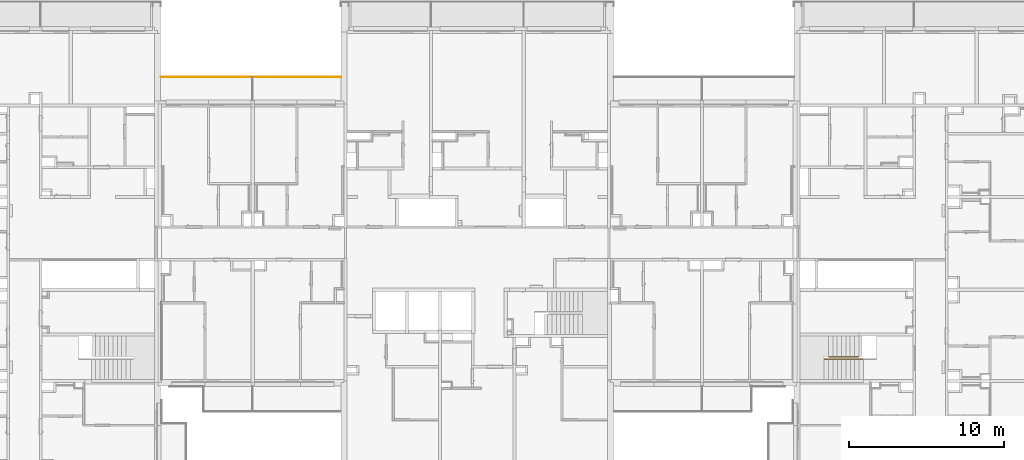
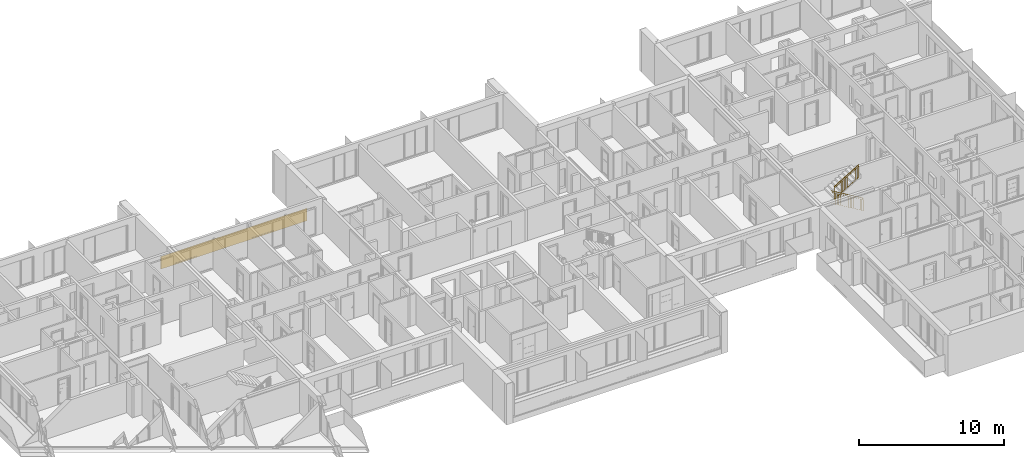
# One storey, part 7 of 67: 3 railings.
"""IFC2X3 building model written with IfcOpenShell, lengths in millimetres."""

import ifcopenshell
import ifcopenshell.guid

model = None  # the IFC model being written
_history = None  # IfcOwnerHistory: only IFC2X3 demands one
_inside = {}  # id of a spatial element -> (the spatial element, [elements in it])
_under = {}  # id of a project, library or spatial element -> (it, [spatial elements below it])
_declared = {}  # id of a project -> (the project, [libraries it declares])
_typed = {}  # id of a type object -> (the type object, [elements of that type])
_made_of = {}  # id of a material, layer set ... -> (it, [elements and type objects made of it])


def new_model(schema):
    """Start an empty IFC model of exactly this schema.

    Asked for "IFC4X3", IfcOpenShell would pick the latest addendum, in which some entities
    have other attributes; the version numbers below select the first issue.
    IFC2X3 requires an IfcOwnerHistory on every rooted entity: one is made here for all.
    """
    global model, _history
    if schema == "IFC4X3":
        model = ifcopenshell.file(schema_version=(4, 3, 0, 0))
    else:
        model = ifcopenshell.file(schema=schema)
    _inside.clear()
    _under.clear()
    _declared.clear()
    _typed.clear()
    _made_of.clear()
    _history = None
    if model.schema == "IFC2X3":
        org = make("IfcOrganization", Name="unknown")
        user = make(
            "IfcPersonAndOrganization",
            ThePerson=make("IfcPerson", FamilyName="unknown"),
            TheOrganization=org,
        )
        app = make(
            "IfcApplication",
            ApplicationDeveloper=org,
            Version="unknown",
            ApplicationFullName="unknown",
            ApplicationIdentifier="unknown",
        )
        _history = make(
            "IfcOwnerHistory",
            OwningUser=user,
            OwningApplication=app,
            ChangeAction="ADDED",
            CreationDate=0,
        )
    return model


def make(cls, **values):
    """One entity of the class cls with the attributes given. An attribute that is None is left unset."""
    return model.create_entity(
        cls, **{name: value for name, value in values.items() if value is not None}
    )


def entity(cls, *values):
    """Any entity or typed value of the class cls, its attributes in the order of the schema. None: left unset."""
    e = model.create_entity(cls)
    for i, value in enumerate(values):
        if value is not None:
            e[i] = value
    return e


def rooted(cls, **values):
    """An entity with a GlobalId (a new one), such as an element, a storey or a relation."""
    return make(cls, GlobalId=ifcopenshell.guid.new(), OwnerHistory=_history, **values)


def si_unit(unit_type, name, prefix=None):
    """IfcSIUnit, for example si_unit("LENGTHUNIT", "METRE", prefix="MILLI")."""
    return make("IfcSIUnit", UnitType=unit_type, Prefix=prefix, Name=name)


def converted_unit(unit_type, name, factor, base, dimensions=None, offset=None):
    """IfcConversionBasedUnit, such as the inch: factor (a typed value) times the base unit."""
    return make(
        "IfcConversionBasedUnit"
        if offset is None
        else "IfcConversionBasedUnitWithOffset",
        ConversionOffset=offset,
        Dimensions=None
        if dimensions is None
        else entity("IfcDimensionalExponents", *dimensions),
        UnitType=unit_type,
        Name=name,
        ConversionFactor=make(
            "IfcMeasureWithUnit", ValueComponent=factor, UnitComponent=base
        ),
    )


def derived_unit(unit_type, elements):
    """IfcDerivedUnit: a product of units, each with its exponent."""
    return make(
        "IfcDerivedUnit",
        Elements=[
            make("IfcDerivedUnitElement", Unit=unit, Exponent=power)
            for unit, power in elements
        ],
        UnitType=unit_type,
    )


def money_unit(currency):
    """IfcMonetaryUnit."""
    return make("IfcMonetaryUnit", Currency=currency)


def assignment(units):
    """IfcUnitAssignment: the units of a project."""
    return None if units is None else make("IfcUnitAssignment", Units=units)


def point(xyz):
    """IfcCartesianPoint."""
    return None if xyz is None else make("IfcCartesianPoint", Coordinates=xyz)


def direction(xyz):
    """IfcDirection."""
    return None if xyz is None else make("IfcDirection", DirectionRatios=xyz)


def frame(location, z_axis=None, x_axis=None):
    """IfcAxis2Placement3D, a coordinate frame: its origin and axes. An axis left out is left unset."""
    return make(
        "IfcAxis2Placement3D",
        Location=point(location),
        Axis=direction(z_axis),
        RefDirection=direction(x_axis),
    )


def origin_with_axes():
    """The frame at (0, 0, 0) with the z axis (0, 0, 1) and the x axis (1, 0, 0) written out."""
    return frame((0.0, 0.0, 0.0), z_axis=(0.0, 0.0, 1.0), x_axis=(1.0, 0.0, 0.0))


def place(relative_to, where):
    """IfcLocalPlacement: puts the frame where relative to a parent placement (None: the world)."""
    return make(
        "IfcLocalPlacement", PlacementRelTo=relative_to, RelativePlacement=where
    )


def context(
    kind, dimensions, precision=None, world=None, true_north=None, identifier=None
):
    """IfcGeometricRepresentationContext, for example the 3D "Model" context."""
    return make(
        "IfcGeometricRepresentationContext",
        ContextIdentifier=identifier,
        ContextType=kind,
        CoordinateSpaceDimension=dimensions,
        Precision=precision,
        WorldCoordinateSystem=world,
        TrueNorth=true_north,
    )


def subcontext(parent, identifier, kind, view, scale=None):
    """IfcGeometricRepresentationSubContext, for example "Body" below "Model"."""
    return make(
        "IfcGeometricRepresentationSubContext",
        ContextIdentifier=identifier,
        ContextType=kind,
        ParentContext=parent,
        TargetScale=scale,
        TargetView=view,
    )


def project(units=None, contexts=None):
    """IfcProject with its units and contexts."""
    return rooted(
        "IfcProject",
        Name="project",
        RepresentationContexts=contexts,
        UnitsInContext=assignment(units),
    )


def spatial(cls, under=None, at=None, **own):
    """A site, building, storey or space (cls), placed at a placement, below another one or the project."""
    s = rooted(cls, ObjectPlacement=at, **own)
    if under is not None:
        _under.setdefault(under.id(), (under, []))[1].append(s)
    return s


def faces_of(points, faces, orient=None, outer=None):
    """IfcFace entities. A face is a list of loops; a loop is a list of indices into points, from 0.

    orient and outer hold one flag for each loop. By default every Orientation is true, the
    first loop of a face is its IfcFaceOuterBound and the others are IfcFaceBound.
    """
    made = []
    for i, loops in enumerate(faces):
        bounds = []
        for j, loop in enumerate(loops):
            is_outer = j == 0 if outer is None else outer[i][j]
            bounds.append(
                make(
                    "IfcFaceOuterBound" if is_outer else "IfcFaceBound",
                    Bound=make("IfcPolyLoop", Polygon=[points[k] for k in loop]),
                    Orientation=True if orient is None else orient[i][j],
                )
            )
        made.append(make("IfcFace", Bounds=bounds))
    return made


def faceted_brep(points, faces, orient=None, outer=None, voids=None):
    """IfcFacetedBrep: a solid bounded by flat faces; with voids (closed shells), ...WithVoids."""
    shared = [point(p) for p in points]
    hull = make("IfcClosedShell", CfsFaces=faces_of(shared, faces, orient, outer))
    if voids is None:
        return make("IfcFacetedBrep", Outer=hull)
    return make(
        "IfcFacetedBrepWithVoids",
        Outer=hull,
        Voids=[
            make(cls, CfsFaces=faces_of(shared, fs, o, b)) for cls, fs, o, b in voids
        ],
    )


def shape(context_of_items, identifier, shape_type, items):
    """IfcShapeRepresentation: the items that make up one representation, for example the "Body"."""
    return make(
        "IfcShapeRepresentation",
        ContextOfItems=context_of_items,
        RepresentationIdentifier=identifier,
        RepresentationType=shape_type,
        Items=items,
    )


def material(Name=None, Category=None):
    """IfcMaterial."""
    return make("IfcMaterial", Name=Name, Category=Category)


def material_list(materials):
    """IfcMaterialList."""
    return make("IfcMaterialList", Materials=materials)


def made_of(thing, what):
    """Note that an element or type object is made of a material, layer set ...; save() writes the relation."""
    if what is not None:
        _made_of.setdefault(what.id(), (what, []))[1].append(thing)
    return thing


def type_object(cls, material=None, **own):
    """A type object (cls), such as IfcWallType, which elements share."""
    return made_of(rooted(cls, **own), material)


def element(
    cls,
    number,
    at=None,
    inside=None,
    cuts=None,
    type_object=None,
    material=None,
    context=None,
    identifier="Body",
    shape_type=None,
    held_by="IfcProductDefinitionShape",
    body=None,
    shapes=None,
    **own,
):
    """One element of the class cls, such as IfcWall. Its Tag is "e" and its number.

    at: its placement. inside: the storey or other place that contains it. cuts: it is an
    opening in that element (IfcRelVoidsElement). A single representation is given by context,
    identifier, shape_type and body (its items); several are given by shapes. held_by: the class
    of the entity that holds the representations. save() writes the other relations.
    """
    e = rooted(cls, Tag="e%d" % number, ObjectPlacement=at, **own)
    if body is not None:
        shapes = [shape(context, identifier, shape_type, body)]
    if shapes is not None:
        e.Representation = make(held_by, Representations=shapes)
    if inside is not None:
        _inside.setdefault(inside.id(), (inside, []))[1].append(e)
    if cuts is not None:
        rooted(
            "IfcRelVoidsElement", RelatingBuildingElement=cuts, RelatedOpeningElement=e
        )
    if type_object is not None:
        _typed.setdefault(type_object.id(), (type_object, []))[1].append(e)
    return made_of(e, material)


def aggregate(whole, parts):
    """IfcRelAggregates: a whole, such as a stair, and the parts it consists of."""
    return rooted("IfcRelAggregates", RelatingObject=whole, RelatedObjects=parts)


def save(model, path):
    """Write the relations noted so far, then the file.

    IfcRelAggregates (storeys below a building ...), IfcRelContainedInSpatialStructure (elements
    in a storey), IfcRelDefinesByType, IfcRelAssociatesMaterial and IfcRelDeclares: one each for
    every whole, place, type object, material and project.
    """
    for whole, parts in _under.values():
        aggregate(whole, parts)
    for where, things in _inside.values():
        rooted(
            "IfcRelContainedInSpatialStructure",
            RelatedElements=things,
            RelatingStructure=where,
        )
    for kind, things in _typed.values():
        rooted("IfcRelDefinesByType", RelatedObjects=things, RelatingType=kind)
    for what, things in _made_of.values():
        rooted("IfcRelAssociatesMaterial", RelatedObjects=things, RelatingMaterial=what)
    for by, libraries in _declared.values():
        rooted("IfcRelDeclares", RelatingContext=by, RelatedDefinitions=libraries)
    model.write(path)


model = new_model("IFC2X3")

# Units and contexts
model_context = context("Model", 3, precision=0.01, world=origin_with_axes(), true_north=direction((0.34421633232, 0.938890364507)))
body_context = subcontext(model_context, "Body", "Model", "MODEL_VIEW")
ifc_project = project(units=[si_unit("LENGTHUNIT", "METRE", prefix="MILLI"), si_unit("AREAUNIT", "SQUARE_METRE"), si_unit("VOLUMEUNIT", "CUBIC_METRE"), converted_unit("PLANEANGLEUNIT", "DEGREE", entity("IfcPlaneAngleMeasure", 0.0174532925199), si_unit("PLANEANGLEUNIT", "RADIAN"), dimensions=[0, 0, 0, 0, 0, 0, 0]), si_unit("SOLIDANGLEUNIT", "STERADIAN"), money_unit("USD"), converted_unit("TIMEUNIT", "Year", entity("IfcTimeMeasure", 31556926.0), si_unit("TIMEUNIT", "SECOND"), dimensions=[0, 0, 1, 0, 0, 0, 0]), si_unit("MASSUNIT", "GRAM", prefix="KILO"), si_unit("THERMODYNAMICTEMPERATUREUNIT", "DEGREE_CELSIUS"), si_unit("LUMINOUSINTENSITYUNIT", "LUMEN"), si_unit("ENERGYUNIT", "JOULE", prefix="MEGA"), derived_unit("THERMALCONDUCTANCEUNIT", [(si_unit("POWERUNIT", "WATT"), 1), (si_unit("LENGTHUNIT", "METRE"), -1), (si_unit("THERMODYNAMICTEMPERATUREUNIT", "KELVIN"), -1)]), derived_unit("SPECIFICHEATCAPACITYUNIT", [(si_unit("ENERGYUNIT", "JOULE"), 1), (si_unit("MASSUNIT", "GRAM", prefix="KILO"), -1), (si_unit("THERMODYNAMICTEMPERATUREUNIT", "KELVIN"), -1)]), derived_unit("MASSDENSITYUNIT", [(si_unit("MASSUNIT", "GRAM", prefix="KILO"), 1), (si_unit("VOLUMEUNIT", "CUBIC_METRE"), -1)])], contexts=[model_context])

# Site, building, storey
site_placement = place(None, origin_with_axes())
site = spatial("IfcSite", under=ifc_project, at=site_placement, Name="USTRONIE MORSKIE", CompositionType="ELEMENT")
building_placement = place(site_placement, origin_with_axes())
building = spatial("IfcBuilding", under=site, at=building_placement, Name="Budynek", CompositionType="ELEMENT")
storey_placement = place(building_placement, frame((0.0, 0.0, 4000.0), z_axis=(0.0, 0.0, 1.0), x_axis=(1.0, 0.0, 0.0)))
storey = spatial("IfcBuildingStorey", under=building, at=storey_placement, Name="PIĘTRO 1", CompositionType="ELEMENT", Elevation=4000.0)

# Railings
ifc_material_1 = material(Name="Szkło struktualne")
ifc_material_2 = material(Name="Profile aluminiowe")
ifc_material_list_1 = material_list([ifc_material_1, ifc_material_2])
railing_type = type_object("IfcRailingType", Name="Typ balustrady", PredefinedType="NOTDEFINED")
railing_1_placement = place(storey_placement, frame((367367.920919, 746801.194135, 30.0), z_axis=(0.0, 0.0, 1.0), x_axis=(1.0, 0.0, 0.0)))
element("IfcRailing", 1, at=railing_1_placement, inside=storey, type_object=railing_type, material=ifc_material_list_1, Name="BL1", PredefinedType="NOTDEFINED", context=body_context, shape_type="Brep", body=[
    faceted_brep([(11650.0, -240.0, -100.0), (0.0, -240.0, -100.0), (0.0, -240.0, 950.0), (11650.0, -240.0, 950.0), (0.0, -260.0, -100.0), (11650.0, -260.0, -100.0), (0.0, -260.0, 950.0), (11650.0, -260.0, 950.0)], [[[0, 1, 2, 3]], [[4, 1, 0, 5]], [[6, 2, 1, 4]], [[3, 2, 6, 7]], [[0, 3, 7, 5]], [[6, 4, 5, 7]]]),
    faceted_brep([(11650.0, -265.0, -5.0), (0.0, -265.0, -5.0), (0.0, -265.0, -105.0), (11650.0, -265.0, -105.0), (11650.0, -260.0, -5.0), (0.0, -260.0, -5.0), (0.0, -260.0, -100.0), (0.0, -240.0, -100.0), (0.0, -240.0, -5.0), (0.0, -235.0, -5.0), (0.0, -235.0, -105.0), (11650.0, -235.0, -105.0), (11650.0, -235.0, -5.0), (11650.0, -240.0, -5.0), (11650.0, -240.0, -100.0), (11650.0, -260.0, -100.0)], [[[0, 1, 2, 3]], [[1, 0, 4, 5]], [[6, 7, 8, 9, 10, 2, 1, 5]], [[10, 11, 3, 2]], [[11, 12, 13, 14, 15, 4, 0, 3]], [[15, 6, 5, 4]], [[7, 6, 15, 14]], [[8, 7, 14, 13]], [[9, 8, 13, 12]], [[11, 10, 9, 12]]]),
])
ifc_material_3 = material(Name="Stal konstrukcyjna")
ifc_material_4 = material(Name="Stal nierdzewna")
ifc_material_list_2 = material_list([ifc_material_3, ifc_material_3, ifc_material_4, ifc_material_4, ifc_material_4, ifc_material_3, ifc_material_3, ifc_material_3, ifc_material_3, ifc_material_3, ifc_material_3, ifc_material_3, ifc_material_3, ifc_material_3, ifc_material_3, ifc_material_3, ifc_material_3, ifc_material_3, ifc_material_3, ifc_material_3, ifc_material_3, ifc_material_3, ifc_material_3, ifc_material_3, ifc_material_3, ifc_material_3])
railing_2_placement = place(storey_placement, frame((412739.660049, 728301.198948, 166.666666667), z_axis=(0.0, 0.0, 1.0), x_axis=(1.0, 0.0, 0.0)))
element("IfcRailing", 2, at=railing_2_placement, inside=storey, type_object=railing_type, material=ifc_material_list_2, Name="BL1", PredefinedType="NOTDEFINED", context=body_context, shape_type="Brep", body=[
    faceted_brep([(-9.99999999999, 45.0, -144.051724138), (-9.99999999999, 25.0, -144.051724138), (-9.99999999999, 25.0, 755.948275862), (-9.99999999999, 45.0, 755.948275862), (9.99999999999, 45.0, -155.948275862), (9.99999999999, 25.0, -155.948275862), (-5.0, 40.0, -147.025862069), (-5.0, 30.0, -147.025862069), (5.0, 30.0, -152.974137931), (5.0, 40.0, -152.974137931), (9.99999999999, 25.0, 744.051724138), (9.99999999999, 45.0, 744.051724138), (-5.0, 40.0, 752.974137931), (5.0, 40.0, 747.025862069), (5.0, 30.0, 747.025862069), (-5.0, 30.0, 752.974137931)], [[[0, 1, 2, 3]], [[0, 4, 5, 1], [6, 7, 8, 9]], [[1, 5, 10, 2]], [[3, 2, 10, 11], [12, 13, 14, 15]], [[4, 0, 3, 11]], [[5, 4, 11, 10]], [[7, 6, 12, 15]], [[8, 7, 15, 14]], [[9, 8, 14, 13]], [[6, 9, 13, 12]]]),
    faceted_brep([(-2531.73913043, 45.0, 1355.94827586), (-2531.73913043, 25.0, 1355.94827586), (-2531.73913043, 25.0, 2255.94827586), (-2531.73913043, 45.0, 2255.94827586), (-2511.73913043, 45.0, 1344.05172414), (-2511.73913043, 25.0, 1344.05172414), (-2526.73913043, 40.0, 1352.97413793), (-2526.73913043, 30.0, 1352.97413793), (-2516.73913043, 30.0, 1347.02586207), (-2516.73913043, 40.0, 1347.02586207), (-2511.73913043, 25.0, 2244.05172414), (-2511.73913043, 45.0, 2244.05172414), (-2526.73913043, 40.0, 2252.97413793), (-2516.73913043, 40.0, 2247.02586207), (-2516.73913043, 30.0, 2247.02586207), (-2526.73913043, 30.0, 2252.97413793)], [[[0, 1, 2, 3]], [[0, 4, 5, 1], [6, 7, 8, 9]], [[1, 5, 10, 2]], [[3, 2, 10, 11], [12, 13, 14, 15]], [[4, 0, 3, 11]], [[5, 4, 11, 10]], [[7, 6, 12, 15]], [[8, 7, 15, 14]], [[9, 8, 14, 13]], [[6, 9, 13, 12]]]),
    faceted_brep([(0.0, 59.9999999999, 900.0), (-12.7805831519, 59.9999999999, 878.513802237), (-2534.51971359, 59.9999999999, 2378.51380224), (-2521.73913043, 59.9999999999, 2400.0), (0.0, 9.99999999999, 900.0), (-12.7805831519, 9.99999999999, 878.513802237), (-12.7805831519, 25.0, 878.513802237), (-10.2244665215, 25.0, 882.81104179), (-10.2244665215, 45.0, 882.81104179), (-12.7805831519, 45.0, 878.513802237), (-2534.51971359, 45.0, 2378.51380224), (-2531.96359696, 45.0, 2382.81104179), (-2531.96359696, 25.0, 2382.81104179), (-2534.51971359, 25.0, 2378.51380224), (-2534.51971359, 9.99999999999, 2378.51380224), (-2521.73913043, 9.99999999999, 2400.0)], [[[0, 1, 2, 3]], [[0, 4, 5, 6, 7, 8, 9, 1]], [[1, 9, 10, 2]], [[3, 2, 10, 11, 12, 13, 14, 15]], [[4, 0, 3, 15]], [[5, 4, 15, 14]], [[6, 5, 14, 13]], [[7, 6, 13, 12]], [[8, 7, 12, 11]], [[9, 8, 11, 10]]]),
    faceted_brep([(-12.7805831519, 45.0, 878.513802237), (-12.7805831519, 25.0, 878.513802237), (-2534.51971359, 25.0, 2378.51380224), (-2534.51971359, 45.0, 2378.51380224), (-10.2244665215, 45.0, 882.81104179), (-10.2244665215, 25.0, 882.81104179), (-2531.96359696, 25.0, 2382.81104179), (-2531.96359696, 45.0, 2382.81104179)], [[[0, 1, 2, 3]], [[0, 4, 5, 1]], [[1, 5, 6, 2]], [[3, 2, 6, 7]], [[4, 0, 3, 7]], [[5, 4, 7, 6]]]),
    faceted_brep([(-45.4723955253, 45.0, 776.472725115), (-45.4723955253, 25.0, 776.472725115), (-45.4723955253, 25.0, 897.95979408), (-45.4723955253, 45.0, 897.95979408), (-40.4723955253, 45.0, 776.472725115), (-40.4723955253, 25.0, 776.472725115), (-40.4723955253, 25.0, 896.472725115), (-42.9723955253, 25.0, 897.95979408), (-42.9723955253, 45.0, 897.95979408), (-40.4723955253, 45.0, 896.472725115)], [[[0, 1, 2, 3]], [[0, 4, 5, 1]], [[1, 5, 6, 7, 2]], [[3, 2, 7, 8]], [[4, 0, 3, 8, 9]], [[5, 4, 9, 6]], [[7, 6, 9, 8]]]),
    faceted_brep([(-2481.26673491, 45.0, 2225.35039251), (-2481.26673491, 25.0, 2225.35039251), (-2481.26673491, 25.0, 2346.83746147), (-2481.26673491, 45.0, 2346.83746147), (-2476.26673491, 45.0, 2225.35039251), (-2476.26673491, 25.0, 2225.35039251), (-2476.26673491, 25.0, 2345.35039251), (-2478.76673491, 25.0, 2346.83746147), (-2478.76673491, 45.0, 2346.83746147), (-2476.26673491, 45.0, 2345.35039251)], [[[0, 1, 2, 3]], [[0, 4, 5, 1]], [[1, 5, 6, 7, 2]], [[3, 2, 7, 8]], [[4, 0, 3, 8, 9]], [[5, 4, 9, 6]], [[7, 6, 9, 8]]]),
    faceted_brep([(0.0, 54.9999999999, 750.0), (-2.55611663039, 54.9999999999, 745.702760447), (-2524.29524707, 54.9999999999, 2245.70276045), (-2521.73913043, 54.9999999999, 2250.0), (0.0, 15.0, 750.0), (-2.55611663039, 15.0, 745.702760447), (-2524.29524707, 15.0, 2245.70276045), (-2521.73913043, 15.0, 2250.0)], [[[0, 1, 2, 3]], [[0, 4, 5, 1]], [[1, 5, 6, 2]], [[3, 2, 6, 7]], [[4, 0, 3, 7]], [[5, 4, 7, 6]]]),
    faceted_brep([(1.27805831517, 54.9999999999, -157.851380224), (-1.27805831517, 54.9999999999, -162.148619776), (-2523.01718875, 54.9999999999, 1337.85138022), (-2520.46107212, 54.9999999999, 1342.14861978), (1.27805831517, 15.0, -157.851380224), (-1.27805831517, 15.0, -162.148619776), (-2523.01718875, 15.0, 1337.85138022), (-2520.46107212, 15.0, 1342.14861978)], [[[0, 1, 2, 3]], [[0, 4, 5, 1]], [[1, 5, 6, 2]], [[3, 2, 6, 7]], [[4, 0, 3, 7]], [[5, 4, 7, 6]]]),
    faceted_brep([(-117.124505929, 47.5, -85.3311128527), (-117.124505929, 22.4999999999, -85.3311128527), (-117.124505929, 22.4999999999, 814.668887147), (-117.124505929, 47.5, 814.668887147), (-112.124505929, 47.5, -88.3052507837), (-112.124505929, 22.4999999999, -88.3052507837), (-112.124505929, 22.4999999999, 811.694749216), (-112.124505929, 47.5, 811.694749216)], [[[0, 1, 2, 3]], [[0, 4, 5, 1]], [[1, 5, 6, 2]], [[3, 2, 6, 7]], [[4, 0, 3, 7]], [[5, 4, 7, 6]]]),
    faceted_brep([(-231.749011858, 47.5, -17.1492946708), (-231.749011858, 22.4999999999, -17.1492946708), (-231.749011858, 22.4999999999, 882.850705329), (-231.749011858, 47.5, 882.850705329), (-226.749011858, 47.5, -20.1234326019), (-226.749011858, 22.4999999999, -20.1234326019), (-226.749011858, 22.4999999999, 879.876567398), (-226.749011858, 47.5, 879.876567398)], [[[0, 1, 2, 3]], [[0, 4, 5, 1]], [[1, 5, 6, 2]], [[3, 2, 6, 7]], [[4, 0, 3, 7]], [[5, 4, 7, 6]]]),
    faceted_brep([(-346.373517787, 47.5, 51.032523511), (-346.373517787, 22.4999999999, 51.032523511), (-346.373517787, 22.4999999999, 951.032523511), (-346.373517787, 47.5, 951.032523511), (-341.373517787, 47.5, 48.0583855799), (-341.373517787, 22.4999999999, 48.0583855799), (-341.373517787, 22.4999999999, 948.05838558), (-341.373517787, 47.5, 948.05838558)], [[[0, 1, 2, 3]], [[0, 4, 5, 1]], [[1, 5, 6, 2]], [[3, 2, 6, 7]], [[4, 0, 3, 7]], [[5, 4, 7, 6]]]),
    faceted_brep([(-460.998023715, 47.5, 119.214341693), (-460.998023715, 22.4999999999, 119.214341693), (-460.998023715, 22.4999999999, 1019.21434169), (-460.998023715, 47.5, 1019.21434169), (-455.998023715, 47.5, 116.240203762), (-455.998023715, 22.4999999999, 116.240203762), (-455.998023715, 22.4999999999, 1016.24020376), (-455.998023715, 47.5, 1016.24020376)], [[[0, 1, 2, 3]], [[0, 4, 5, 1]], [[1, 5, 6, 2]], [[3, 2, 6, 7]], [[4, 0, 3, 7]], [[5, 4, 7, 6]]]),
    faceted_brep([(-575.622529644, 47.5, 187.396159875), (-575.622529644, 22.4999999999, 187.396159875), (-575.622529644, 22.4999999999, 1087.39615987), (-575.622529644, 47.5, 1087.39615987), (-570.622529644, 47.5, 184.422021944), (-570.622529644, 22.4999999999, 184.422021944), (-570.622529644, 22.4999999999, 1084.42202194), (-570.622529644, 47.5, 1084.42202194)], [[[0, 1, 2, 3]], [[0, 4, 5, 1]], [[1, 5, 6, 2]], [[3, 2, 6, 7]], [[4, 0, 3, 7]], [[5, 4, 7, 6]]]),
    faceted_brep([(-690.247035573, 47.5, 255.577978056), (-690.247035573, 22.4999999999, 255.577978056), (-690.247035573, 22.4999999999, 1155.57797806), (-690.247035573, 47.5, 1155.57797806), (-685.247035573, 47.5, 252.603840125), (-685.247035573, 22.4999999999, 252.603840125), (-685.247035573, 22.4999999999, 1152.60384013), (-685.247035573, 47.5, 1152.60384013)], [[[0, 1, 2, 3]], [[0, 4, 5, 1]], [[1, 5, 6, 2]], [[3, 2, 6, 7]], [[4, 0, 3, 7]], [[5, 4, 7, 6]]]),
    faceted_brep([(-804.871541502, 47.5, 323.759796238), (-804.871541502, 22.4999999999, 323.759796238), (-804.871541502, 22.4999999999, 1223.75979624), (-804.871541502, 47.5, 1223.75979624), (-799.871541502, 47.5, 320.785658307), (-799.871541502, 22.4999999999, 320.785658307), (-799.871541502, 22.4999999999, 1220.78565831), (-799.871541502, 47.5, 1220.78565831)], [[[0, 1, 2, 3]], [[0, 4, 5, 1]], [[1, 5, 6, 2]], [[3, 2, 6, 7]], [[4, 0, 3, 7]], [[5, 4, 7, 6]]]),
    faceted_brep([(-919.496047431, 47.5, 391.94161442), (-919.496047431, 22.4999999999, 391.94161442), (-919.496047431, 22.4999999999, 1291.94161442), (-919.496047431, 47.5, 1291.94161442), (-914.496047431, 47.5, 388.967476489), (-914.496047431, 22.4999999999, 388.967476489), (-914.496047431, 22.4999999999, 1288.96747649), (-914.496047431, 47.5, 1288.96747649)], [[[0, 1, 2, 3]], [[0, 4, 5, 1]], [[1, 5, 6, 2]], [[3, 2, 6, 7]], [[4, 0, 3, 7]], [[5, 4, 7, 6]]]),
    faceted_brep([(-1034.12055336, 47.5, 460.123432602), (-1034.12055336, 22.4999999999, 460.123432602), (-1034.12055336, 22.4999999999, 1360.1234326), (-1034.12055336, 47.5, 1360.1234326), (-1029.12055336, 47.5, 457.149294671), (-1029.12055336, 22.4999999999, 457.149294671), (-1029.12055336, 22.4999999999, 1357.14929467), (-1029.12055336, 47.5, 1357.14929467)], [[[0, 1, 2, 3]], [[0, 4, 5, 1]], [[1, 5, 6, 2]], [[3, 2, 6, 7]], [[4, 0, 3, 7]], [[5, 4, 7, 6]]]),
    faceted_brep([(-1148.74505929, 47.5, 528.305250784), (-1148.74505929, 22.4999999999, 528.305250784), (-1148.74505929, 22.4999999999, 1428.30525078), (-1148.74505929, 47.5, 1428.30525078), (-1143.74505929, 47.5, 525.331112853), (-1143.74505929, 22.4999999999, 525.331112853), (-1143.74505929, 22.4999999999, 1425.33111285), (-1143.74505929, 47.5, 1425.33111285)], [[[0, 1, 2, 3]], [[0, 4, 5, 1]], [[1, 5, 6, 2]], [[3, 2, 6, 7]], [[4, 0, 3, 7]], [[5, 4, 7, 6]]]),
    faceted_brep([(-1263.36956522, 47.5, 596.487068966), (-1263.36956522, 22.4999999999, 596.487068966), (-1263.36956522, 22.4999999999, 1496.48706897), (-1263.36956522, 47.5, 1496.48706897), (-1258.36956522, 47.5, 593.512931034), (-1258.36956522, 22.4999999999, 593.512931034), (-1258.36956522, 22.4999999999, 1493.51293103), (-1258.36956522, 47.5, 1493.51293103)], [[[0, 1, 2, 3]], [[0, 4, 5, 1]], [[1, 5, 6, 2]], [[3, 2, 6, 7]], [[4, 0, 3, 7]], [[5, 4, 7, 6]]]),
    faceted_brep([(-1377.99407115, 47.5, 664.668887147), (-1377.99407115, 22.4999999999, 664.668887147), (-1377.99407115, 22.4999999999, 1564.66888715), (-1377.99407115, 47.5, 1564.66888715), (-1372.99407115, 47.5, 661.694749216), (-1372.99407115, 22.4999999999, 661.694749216), (-1372.99407115, 22.4999999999, 1561.69474922), (-1372.99407115, 47.5, 1561.69474922)], [[[0, 1, 2, 3]], [[0, 4, 5, 1]], [[1, 5, 6, 2]], [[3, 2, 6, 7]], [[4, 0, 3, 7]], [[5, 4, 7, 6]]]),
    faceted_brep([(-1492.61857708, 47.5, 732.850705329), (-1492.61857708, 22.4999999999, 732.850705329), (-1492.61857708, 22.4999999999, 1632.85070533), (-1492.61857708, 47.5, 1632.85070533), (-1487.61857708, 47.5, 729.876567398), (-1487.61857708, 22.4999999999, 729.876567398), (-1487.61857708, 22.4999999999, 1629.8765674), (-1487.61857708, 47.5, 1629.8765674)], [[[0, 1, 2, 3]], [[0, 4, 5, 1]], [[1, 5, 6, 2]], [[3, 2, 6, 7]], [[4, 0, 3, 7]], [[5, 4, 7, 6]]]),
    faceted_brep([(-1607.243083, 47.5, 801.032523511), (-1607.243083, 22.4999999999, 801.032523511), (-1607.243083, 22.4999999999, 1701.03252351), (-1607.243083, 47.5, 1701.03252351), (-1602.243083, 47.5, 798.05838558), (-1602.243083, 22.4999999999, 798.05838558), (-1602.243083, 22.4999999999, 1698.05838558), (-1602.243083, 47.5, 1698.05838558)], [[[0, 1, 2, 3]], [[0, 4, 5, 1]], [[1, 5, 6, 2]], [[3, 2, 6, 7]], [[4, 0, 3, 7]], [[5, 4, 7, 6]]]),
    faceted_brep([(-1721.86758893, 47.5, 869.214341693), (-1721.86758893, 22.4999999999, 869.214341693), (-1721.86758893, 22.4999999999, 1769.21434169), (-1721.86758893, 47.5, 1769.21434169), (-1716.86758893, 47.5, 866.240203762), (-1716.86758893, 22.4999999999, 866.240203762), (-1716.86758893, 22.4999999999, 1766.24020376), (-1716.86758893, 47.5, 1766.24020376)], [[[0, 1, 2, 3]], [[0, 4, 5, 1]], [[1, 5, 6, 2]], [[3, 2, 6, 7]], [[4, 0, 3, 7]], [[5, 4, 7, 6]]]),
    faceted_brep([(-1836.49209486, 47.5, 937.396159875), (-1836.49209486, 22.4999999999, 937.396159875), (-1836.49209486, 22.4999999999, 1837.39615987), (-1836.49209486, 47.5, 1837.39615987), (-1831.49209486, 47.5, 934.422021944), (-1831.49209486, 22.4999999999, 934.422021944), (-1831.49209486, 22.4999999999, 1834.42202194), (-1831.49209486, 47.5, 1834.42202194)], [[[0, 1, 2, 3]], [[0, 4, 5, 1]], [[1, 5, 6, 2]], [[3, 2, 6, 7]], [[4, 0, 3, 7]], [[5, 4, 7, 6]]]),
    faceted_brep([(-1951.11660079, 47.5, 1005.57797806), (-1951.11660079, 22.4999999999, 1005.57797806), (-1951.11660079, 22.4999999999, 1905.57797806), (-1951.11660079, 47.5, 1905.57797806), (-1946.11660079, 47.5, 1002.60384013), (-1946.11660079, 22.4999999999, 1002.60384013), (-1946.11660079, 22.4999999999, 1902.60384013), (-1946.11660079, 47.5, 1902.60384013)], [[[0, 1, 2, 3]], [[0, 4, 5, 1]], [[1, 5, 6, 2]], [[3, 2, 6, 7]], [[4, 0, 3, 7]], [[5, 4, 7, 6]]]),
    faceted_brep([(-2065.74110672, 47.5, 1073.75979624), (-2065.74110672, 22.4999999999, 1073.75979624), (-2065.74110672, 22.4999999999, 1973.75979624), (-2065.74110672, 47.5, 1973.75979624), (-2060.74110672, 47.5, 1070.78565831), (-2060.74110672, 22.4999999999, 1070.78565831), (-2060.74110672, 22.4999999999, 1970.78565831), (-2060.74110672, 47.5, 1970.78565831)], [[[0, 1, 2, 3]], [[0, 4, 5, 1]], [[1, 5, 6, 2]], [[3, 2, 6, 7]], [[4, 0, 3, 7]], [[5, 4, 7, 6]]]),
    faceted_brep([(-2180.36561265, 47.5, 1141.94161442), (-2180.36561265, 22.4999999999, 1141.94161442), (-2180.36561265, 22.4999999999, 2041.94161442), (-2180.36561265, 47.5, 2041.94161442), (-2175.36561265, 47.5, 1138.96747649), (-2175.36561265, 22.4999999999, 1138.96747649), (-2175.36561265, 22.4999999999, 2038.96747649), (-2175.36561265, 47.5, 2038.96747649)], [[[0, 1, 2, 3]], [[0, 4, 5, 1]], [[1, 5, 6, 2]], [[3, 2, 6, 7]], [[4, 0, 3, 7]], [[5, 4, 7, 6]]]),
    faceted_brep([(-2294.99011858, 47.5, 1210.1234326), (-2294.99011858, 22.4999999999, 1210.1234326), (-2294.99011858, 22.4999999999, 2110.1234326), (-2294.99011858, 47.5, 2110.1234326), (-2289.99011858, 47.5, 1207.14929467), (-2289.99011858, 22.4999999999, 1207.14929467), (-2289.99011858, 22.4999999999, 2107.14929467), (-2289.99011858, 47.5, 2107.14929467)], [[[0, 1, 2, 3]], [[0, 4, 5, 1]], [[1, 5, 6, 2]], [[3, 2, 6, 7]], [[4, 0, 3, 7]], [[5, 4, 7, 6]]]),
    faceted_brep([(-2409.61462451, 47.5, 1278.30525078), (-2409.61462451, 22.4999999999, 1278.30525078), (-2409.61462451, 22.4999999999, 2178.30525078), (-2409.61462451, 47.5, 2178.30525078), (-2404.61462451, 47.5, 1275.33111285), (-2404.61462451, 22.4999999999, 1275.33111285), (-2404.61462451, 22.4999999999, 2175.33111285), (-2404.61462451, 47.5, 2175.33111285)], [[[0, 1, 2, 3]], [[0, 4, 5, 1]], [[1, 5, 6, 2]], [[3, 2, 6, 7]], [[4, 0, 3, 7]], [[5, 4, 7, 6]]]),
])
ifc_material_list_3 = material_list([ifc_material_3, ifc_material_3, ifc_material_4, ifc_material_4, ifc_material_4, ifc_material_3, ifc_material_3, ifc_material_3, ifc_material_3, ifc_material_3, ifc_material_3, ifc_material_3, ifc_material_3, ifc_material_3, ifc_material_3, ifc_material_3, ifc_material_3, ifc_material_3, ifc_material_3, ifc_material_3, ifc_material_3])
railing_3_placement = place(storey_placement, frame((410497.920919, 728501.198948, 1833.33333333), z_axis=(0.0, 0.0, 1.0), x_axis=(1.0, 0.0, 0.0)))
element("IfcRailing", 3, at=railing_3_placement, inside=storey, type_object=railing_type, material=ifc_material_list_3, Name="BL1", PredefinedType="NOTDEFINED", context=body_context, shape_type="Brep", body=[
    faceted_brep([(9.99999999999, -45.0, -144.047619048), (9.99999999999, -25.0, -144.047619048), (9.99999999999, -25.0, 755.952380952), (9.99999999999, -45.0, 755.952380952), (-9.99999999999, -45.0, -155.952380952), (-9.99999999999, -25.0, -155.952380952), (5.0, -40.0, -147.023809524), (5.0, -30.0, -147.023809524), (-5.0, -30.0, -152.976190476), (-5.0, -40.0, -152.976190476), (-9.99999999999, -25.0, 744.047619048), (-9.99999999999, -45.0, 744.047619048), (5.0, -40.0, 752.976190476), (-5.0, -40.0, 747.023809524), (-5.0, -30.0, 747.023809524), (5.0, -30.0, 752.976190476)], [[[0, 1, 2, 3]], [[0, 4, 5, 1], [6, 7, 8, 9]], [[1, 5, 10, 2]], [[3, 2, 10, 11], [12, 13, 14, 15]], [[4, 0, 3, 11]], [[5, 4, 11, 10]], [[7, 6, 12, 15]], [[8, 7, 15, 14]], [[9, 8, 14, 13]], [[6, 9, 13, 12]]]),
    faceted_brep([(1970.0, -45.0, 1022.61904762), (1970.0, -25.0, 1022.61904762), (1970.0, -25.0, 1922.61904762), (1970.0, -45.0, 1922.61904762), (1950.0, -45.0, 1010.71428571), (1950.0, -25.0, 1010.71428571), (1965.0, -40.0, 1019.64285714), (1965.0, -30.0, 1019.64285714), (1955.0, -30.0, 1013.69047619), (1955.0, -40.0, 1013.69047619), (1950.0, -25.0, 1910.71428571), (1950.0, -45.0, 1910.71428571), (1965.0, -40.0, 1919.64285714), (1955.0, -40.0, 1913.69047619), (1955.0, -30.0, 1913.69047619), (1965.0, -30.0, 1919.64285714)], [[[0, 1, 2, 3]], [[0, 4, 5, 1], [6, 7, 8, 9]], [[1, 5, 10, 2]], [[3, 2, 10, 11], [12, 13, 14, 15]], [[4, 0, 3, 11]], [[5, 4, 11, 10]], [[7, 6, 12, 15]], [[8, 7, 15, 14]], [[9, 8, 14, 13]], [[6, 9, 13, 12]]]),
    faceted_brep([(0.0, -59.9999999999, 900.0), (12.7870964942, -59.9999999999, 878.51767789), (1972.78709649, -59.9999999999, 2045.18434456), (1960.0, -59.9999999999, 2066.66666667), (0.0, -9.99999999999, 900.0), (12.7870964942, -9.99999999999, 878.51767789), (12.7870964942, -25.0, 878.51767789), (10.2296771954, -25.0, 882.814142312), (10.2296771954, -45.0, 882.814142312), (12.7870964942, -45.0, 878.51767789), (1972.78709649, -45.0, 2045.18434456), (1970.2296772, -45.0, 2049.48080898), (1970.2296772, -25.0, 2049.48080898), (1972.78709649, -25.0, 2045.18434456), (1972.78709649, -9.99999999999, 2045.18434456), (1960.0, -9.99999999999, 2066.66666667)], [[[0, 1, 2, 3]], [[0, 4, 5, 6, 7, 8, 9, 1]], [[1, 9, 10, 2]], [[3, 2, 10, 11, 12, 13, 14, 15]], [[4, 0, 3, 15]], [[5, 4, 15, 14]], [[6, 5, 14, 13]], [[7, 6, 13, 12]], [[8, 7, 12, 11]], [[9, 8, 11, 10]]]),
    faceted_brep([(12.7870964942, -45.0, 878.51767789), (12.7870964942, -25.0, 878.51767789), (1972.78709649, -25.0, 2045.18434456), (1972.78709649, -45.0, 2045.18434456), (10.2296771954, -45.0, 882.814142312), (10.2296771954, -25.0, 882.814142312), (1970.2296772, -25.0, 2049.48080898), (1970.2296772, -45.0, 2049.48080898)], [[[0, 1, 2, 3]], [[0, 4, 5, 1]], [[1, 5, 6, 2]], [[3, 2, 6, 7]], [[4, 0, 3, 7]], [[5, 4, 7, 6]]]),
    faceted_brep([(45.4646442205, -45.0, 776.480503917), (45.4646442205, -25.0, 776.480503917), (45.4646442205, -25.0, 897.968599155), (45.4646442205, -45.0, 897.968599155), (40.4646442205, -45.0, 776.480503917), (40.4646442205, -25.0, 776.480503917), (40.4646442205, -25.0, 896.480503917), (42.9646442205, -25.0, 897.968599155), (42.9646442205, -45.0, 897.968599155), (40.4646442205, -45.0, 896.480503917)], [[[0, 1, 2, 3]], [[0, 4, 5, 1]], [[1, 5, 6, 7, 2]], [[3, 2, 7, 8]], [[4, 0, 3, 8, 9]], [[5, 4, 9, 6]], [[7, 6, 9, 8]]]),
    faceted_brep([(1919.53535578, -45.0, 1891.99878461), (1919.53535578, -25.0, 1891.99878461), (1919.53535578, -25.0, 2013.48687985), (1919.53535578, -45.0, 2013.48687985), (1914.53535578, -45.0, 1891.99878461), (1914.53535578, -25.0, 1891.99878461), (1914.53535578, -25.0, 2011.99878461), (1917.03535578, -25.0, 2013.48687985), (1917.03535578, -45.0, 2013.48687985), (1914.53535578, -45.0, 2011.99878461)], [[[0, 1, 2, 3]], [[0, 4, 5, 1]], [[1, 5, 6, 7, 2]], [[3, 2, 7, 8]], [[4, 0, 3, 8, 9]], [[5, 4, 9, 6]], [[7, 6, 9, 8]]]),
    faceted_brep([(0.0, -54.9999999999, 750.0), (2.55741929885, -54.9999999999, 745.703535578), (1962.5574193, -54.9999999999, 1912.37020224), (1960.0, -54.9999999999, 1916.66666667), (0.0, -15.0, 750.0), (2.55741929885, -15.0, 745.703535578), (1962.5574193, -15.0, 1912.37020224), (1960.0, -15.0, 1916.66666667)], [[[0, 1, 2, 3]], [[0, 4, 5, 1]], [[1, 5, 6, 2]], [[3, 2, 6, 7]], [[4, 0, 3, 7]], [[5, 4, 7, 6]]]),
    faceted_brep([(-1.2787096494, -54.9999999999, -157.851767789), (1.2787096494, -54.9999999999, -162.148232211), (1961.27870965, -54.9999999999, 1004.51843446), (1958.72129035, -54.9999999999, 1008.81489888), (-1.2787096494, -15.0, -157.851767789), (1.2787096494, -15.0, -162.148232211), (1961.27870965, -15.0, 1004.51843446), (1958.72129035, -15.0, 1008.81489888)], [[[0, 1, 2, 3]], [[0, 4, 5, 1]], [[1, 5, 6, 2]], [[3, 2, 6, 7]], [[4, 0, 3, 7]], [[5, 4, 7, 6]]]),
    faceted_brep([(117.794117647, -47.5, -84.8844537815), (117.794117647, -22.4999999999, -84.8844537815), (117.794117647, -22.4999999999, 815.115546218), (117.794117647, -47.5, 815.115546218), (112.794117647, -47.5, -87.8606442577), (112.794117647, -22.4999999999, -87.8606442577), (112.794117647, -22.4999999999, 812.139355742), (112.794117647, -47.5, 812.139355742)], [[[0, 1, 2, 3]], [[0, 4, 5, 1]], [[1, 5, 6, 2]], [[3, 2, 6, 7]], [[4, 0, 3, 7]], [[5, 4, 7, 6]]]),
    faceted_brep([(233.088235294, -47.5, -16.2570028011), (233.088235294, -22.4999999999, -16.2570028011), (233.088235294, -22.4999999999, 883.742997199), (233.088235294, -47.5, 883.742997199), (228.088235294, -47.5, -19.2331932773), (228.088235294, -22.4999999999, -19.2331932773), (228.088235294, -22.4999999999, 880.766806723), (228.088235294, -47.5, 880.766806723)], [[[0, 1, 2, 3]], [[0, 4, 5, 1]], [[1, 5, 6, 2]], [[3, 2, 6, 7]], [[4, 0, 3, 7]], [[5, 4, 7, 6]]]),
    faceted_brep([(348.382352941, -47.5, 52.3704481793), (348.382352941, -22.4999999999, 52.3704481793), (348.382352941, -22.4999999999, 952.370448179), (348.382352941, -47.5, 952.370448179), (343.382352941, -47.5, 49.3942577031), (343.382352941, -22.4999999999, 49.3942577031), (343.382352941, -22.4999999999, 949.394257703), (343.382352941, -47.5, 949.394257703)], [[[0, 1, 2, 3]], [[0, 4, 5, 1]], [[1, 5, 6, 2]], [[3, 2, 6, 7]], [[4, 0, 3, 7]], [[5, 4, 7, 6]]]),
    faceted_brep([(463.676470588, -47.5, 120.99789916), (463.676470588, -22.4999999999, 120.99789916), (463.676470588, -22.4999999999, 1020.99789916), (463.676470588, -47.5, 1020.99789916), (458.676470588, -47.5, 118.021708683), (458.676470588, -22.4999999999, 118.021708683), (458.676470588, -22.4999999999, 1018.02170868), (458.676470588, -47.5, 1018.02170868)], [[[0, 1, 2, 3]], [[0, 4, 5, 1]], [[1, 5, 6, 2]], [[3, 2, 6, 7]], [[4, 0, 3, 7]], [[5, 4, 7, 6]]]),
    faceted_brep([(578.970588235, -47.5, 189.62535014), (578.970588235, -22.4999999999, 189.62535014), (578.970588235, -22.4999999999, 1089.62535014), (578.970588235, -47.5, 1089.62535014), (573.970588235, -47.5, 186.649159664), (573.970588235, -22.4999999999, 186.649159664), (573.970588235, -22.4999999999, 1086.64915966), (573.970588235, -47.5, 1086.64915966)], [[[0, 1, 2, 3]], [[0, 4, 5, 1]], [[1, 5, 6, 2]], [[3, 2, 6, 7]], [[4, 0, 3, 7]], [[5, 4, 7, 6]]]),
    faceted_brep([(694.264705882, -47.5, 258.25280112), (694.264705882, -22.4999999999, 258.25280112), (694.264705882, -22.4999999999, 1158.25280112), (694.264705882, -47.5, 1158.25280112), (689.264705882, -47.5, 255.276610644), (689.264705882, -22.4999999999, 255.276610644), (689.264705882, -22.4999999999, 1155.27661064), (689.264705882, -47.5, 1155.27661064)], [[[0, 1, 2, 3]], [[0, 4, 5, 1]], [[1, 5, 6, 2]], [[3, 2, 6, 7]], [[4, 0, 3, 7]], [[5, 4, 7, 6]]]),
    faceted_brep([(809.558823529, -47.5, 326.880252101), (809.558823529, -22.4999999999, 326.880252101), (809.558823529, -22.4999999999, 1226.8802521), (809.558823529, -47.5, 1226.8802521), (804.558823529, -47.5, 323.904061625), (804.558823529, -22.4999999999, 323.904061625), (804.558823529, -22.4999999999, 1223.90406162), (804.558823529, -47.5, 1223.90406162)], [[[0, 1, 2, 3]], [[0, 4, 5, 1]], [[1, 5, 6, 2]], [[3, 2, 6, 7]], [[4, 0, 3, 7]], [[5, 4, 7, 6]]]),
    faceted_brep([(924.852941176, -47.5, 395.507703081), (924.852941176, -22.4999999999, 395.507703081), (924.852941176, -22.4999999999, 1295.50770308), (924.852941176, -47.5, 1295.50770308), (919.852941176, -47.5, 392.531512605), (919.852941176, -22.4999999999, 392.531512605), (919.852941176, -22.4999999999, 1292.53151261), (919.852941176, -47.5, 1292.53151261)], [[[0, 1, 2, 3]], [[0, 4, 5, 1]], [[1, 5, 6, 2]], [[3, 2, 6, 7]], [[4, 0, 3, 7]], [[5, 4, 7, 6]]]),
    faceted_brep([(1040.14705882, -47.5, 464.135154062), (1040.14705882, -22.4999999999, 464.135154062), (1040.14705882, -22.4999999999, 1364.13515406), (1040.14705882, -47.5, 1364.13515406), (1035.14705882, -47.5, 461.158963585), (1035.14705882, -22.4999999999, 461.158963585), (1035.14705882, -22.4999999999, 1361.15896359), (1035.14705882, -47.5, 1361.15896359)], [[[0, 1, 2, 3]], [[0, 4, 5, 1]], [[1, 5, 6, 2]], [[3, 2, 6, 7]], [[4, 0, 3, 7]], [[5, 4, 7, 6]]]),
    faceted_brep([(1155.44117647, -47.5, 532.762605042), (1155.44117647, -22.4999999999, 532.762605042), (1155.44117647, -22.4999999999, 1432.76260504), (1155.44117647, -47.5, 1432.76260504), (1150.44117647, -47.5, 529.786414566), (1150.44117647, -22.4999999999, 529.786414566), (1150.44117647, -22.4999999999, 1429.78641457), (1150.44117647, -47.5, 1429.78641457)], [[[0, 1, 2, 3]], [[0, 4, 5, 1]], [[1, 5, 6, 2]], [[3, 2, 6, 7]], [[4, 0, 3, 7]], [[5, 4, 7, 6]]]),
    faceted_brep([(1270.73529412, -47.5, 601.390056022), (1270.73529412, -22.4999999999, 601.390056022), (1270.73529412, -22.4999999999, 1501.39005602), (1270.73529412, -47.5, 1501.39005602), (1265.73529412, -47.5, 598.413865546), (1265.73529412, -22.4999999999, 598.413865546), (1265.73529412, -22.4999999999, 1498.41386555), (1265.73529412, -47.5, 1498.41386555)], [[[0, 1, 2, 3]], [[0, 4, 5, 1]], [[1, 5, 6, 2]], [[3, 2, 6, 7]], [[4, 0, 3, 7]], [[5, 4, 7, 6]]]),
    faceted_brep([(1386.02941176, -47.5, 670.017507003), (1386.02941176, -22.4999999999, 670.017507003), (1386.02941176, -22.4999999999, 1570.017507), (1386.02941176, -47.5, 1570.017507), (1381.02941176, -47.5, 667.041316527), (1381.02941176, -22.4999999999, 667.041316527), (1381.02941176, -22.4999999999, 1567.04131653), (1381.02941176, -47.5, 1567.04131653)], [[[0, 1, 2, 3]], [[0, 4, 5, 1]], [[1, 5, 6, 2]], [[3, 2, 6, 7]], [[4, 0, 3, 7]], [[5, 4, 7, 6]]]),
    faceted_brep([(1501.32352941, -47.5, 738.644957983), (1501.32352941, -22.4999999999, 738.644957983), (1501.32352941, -22.4999999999, 1638.64495798), (1501.32352941, -47.5, 1638.64495798), (1496.32352941, -47.5, 735.668767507), (1496.32352941, -22.4999999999, 735.668767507), (1496.32352941, -22.4999999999, 1635.66876751), (1496.32352941, -47.5, 1635.66876751)], [[[0, 1, 2, 3]], [[0, 4, 5, 1]], [[1, 5, 6, 2]], [[3, 2, 6, 7]], [[4, 0, 3, 7]], [[5, 4, 7, 6]]]),
    faceted_brep([(1616.61764706, -47.5, 807.272408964), (1616.61764706, -22.4999999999, 807.272408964), (1616.61764706, -22.4999999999, 1707.27240896), (1616.61764706, -47.5, 1707.27240896), (1611.61764706, -47.5, 804.296218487), (1611.61764706, -22.4999999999, 804.296218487), (1611.61764706, -22.4999999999, 1704.29621849), (1611.61764706, -47.5, 1704.29621849)], [[[0, 1, 2, 3]], [[0, 4, 5, 1]], [[1, 5, 6, 2]], [[3, 2, 6, 7]], [[4, 0, 3, 7]], [[5, 4, 7, 6]]]),
    faceted_brep([(1731.91176471, -47.5, 875.899859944), (1731.91176471, -22.4999999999, 875.899859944), (1731.91176471, -22.4999999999, 1775.89985994), (1731.91176471, -47.5, 1775.89985994), (1726.91176471, -47.5, 872.923669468), (1726.91176471, -22.4999999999, 872.923669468), (1726.91176471, -22.4999999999, 1772.92366947), (1726.91176471, -47.5, 1772.92366947)], [[[0, 1, 2, 3]], [[0, 4, 5, 1]], [[1, 5, 6, 2]], [[3, 2, 6, 7]], [[4, 0, 3, 7]], [[5, 4, 7, 6]]]),
    faceted_brep([(1847.20588235, -47.5, 944.527310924), (1847.20588235, -22.4999999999, 944.527310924), (1847.20588235, -22.4999999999, 1844.52731092), (1847.20588235, -47.5, 1844.52731092), (1842.20588235, -47.5, 941.551120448), (1842.20588235, -22.4999999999, 941.551120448), (1842.20588235, -22.4999999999, 1841.55112045), (1842.20588235, -47.5, 1841.55112045)], [[[0, 1, 2, 3]], [[0, 4, 5, 1]], [[1, 5, 6, 2]], [[3, 2, 6, 7]], [[4, 0, 3, 7]], [[5, 4, 7, 6]]]),
])

save(model, "model.ifc")
